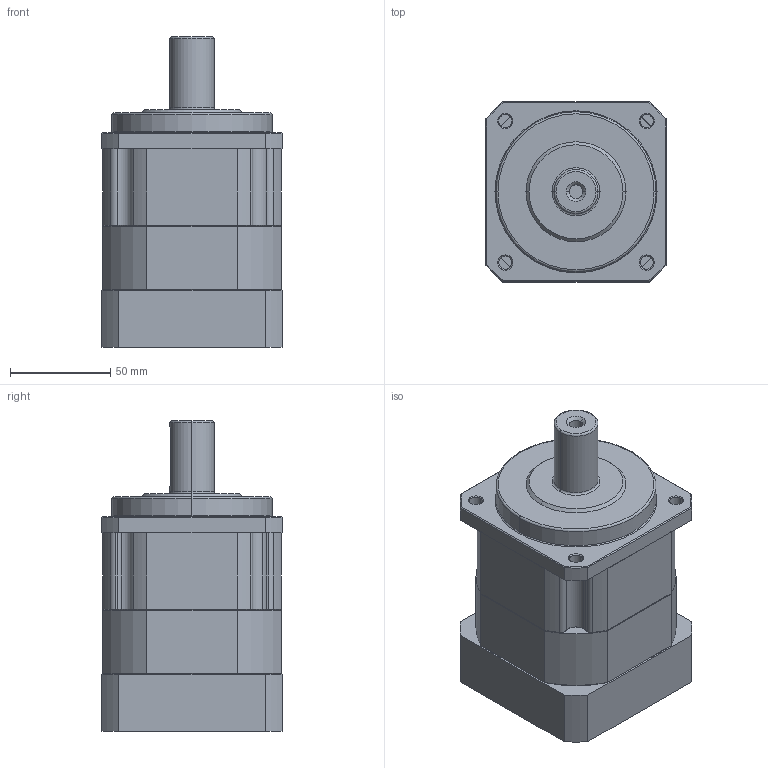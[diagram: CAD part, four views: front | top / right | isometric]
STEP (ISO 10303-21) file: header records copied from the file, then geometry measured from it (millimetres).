
FILE_DESCRIPTION (( 'STEP AP214' ), '1' );
FILE_NAME ('PAB-090-L1-S2-P1 19-70-90-M6.STEP', '2022-06-08T03:27:47', ( 'Admin' ), ( '' ), 'SwSTEP 2.0', 'SolidWorks 2018', '' );
FILE_SCHEMA (( 'AUTOMOTIVE_DESIGN' ));
Length unit declared in the file: millimetre
Products named in the file (1): PAB-090-L1-S2-P1 19-70-90-M6
Bounding box: 90 x 90 x 155 mm (x, y, z)
Volume: 792574 mm3; surface area: 68750.9 mm2
Topology: 1 solids, 1 shells, 174 faces, 412 edges, 254 vertices
Faces by surface type: cylinder 69, plane 52, cone 47, torus 6
Entity records: 5157 total; most frequent: CARTESIAN_POINT 982, DIRECTION 937, ORIENTED_EDGE 824, EDGE_CURVE 412, AXIS2_PLACEMENT_3D 379, VERTEX_POINT 254, CIRCLE 204, EDGE_LOOP 196
